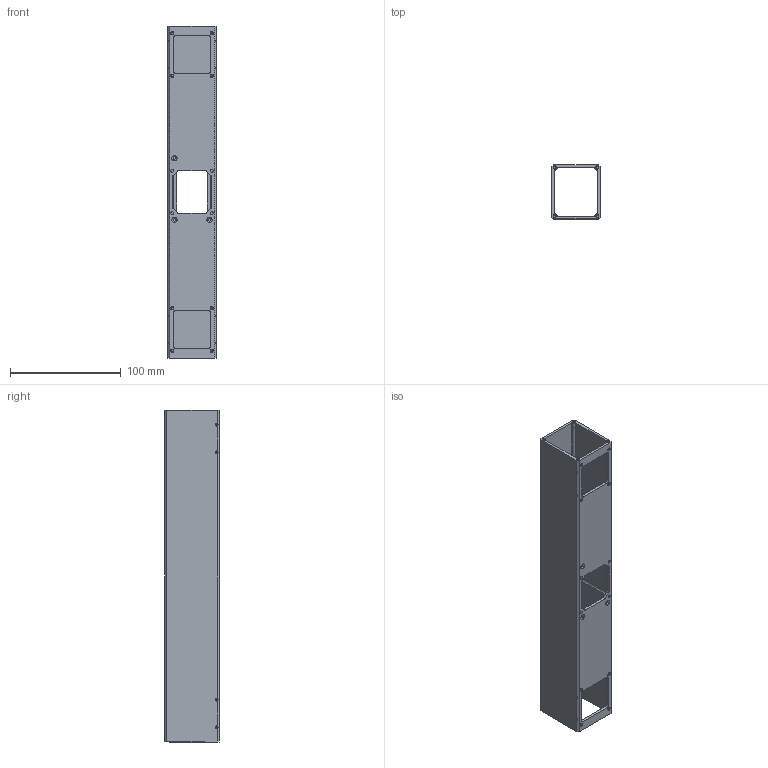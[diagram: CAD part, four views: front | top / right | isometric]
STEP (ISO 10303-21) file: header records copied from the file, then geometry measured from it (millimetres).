
FILE_DESCRIPTION(/* description */ ('VariCAD 2008 3.04 AP-203'),/* implementation_level */ '2;1');
FILE_NAME(/* name */ '0353-10-11',/* time_stamp */ '2009-04-15T16:28:49-06:00',/* author */ (''),/* organization */ (''),/* preprocessor_version */ 'ST-DEVELOPER v12',/* originating_system */ 'VariCAD 2008 3.04; kernel version (20080715)',/* authorisation */ '');
FILE_SCHEMA (('CONFIG_CONTROL_DESIGN'));
Length unit declared in the file: millimetre
Products named in the file (1): Part
Bounding box: 43.5 x 49 x 300 mm (x, y, z)
Volume: 117780.1 mm3; surface area: 96781.3 mm2
Topology: 29 solids, 29 shells, 583 faces, 1667 edges, 1060 vertices
Faces by surface type: cylinder 354, cone 118, plane 111
Entity records: 21521 total; most frequent: CARTESIAN_POINT 6375, ORIENTED_EDGE 3318, DIRECTION 3011, EDGE_CURVE 1659, AXIS2_PLACEMENT_3D 1170, VERTEX_POINT 1060, LINE 671, VECTOR 671
